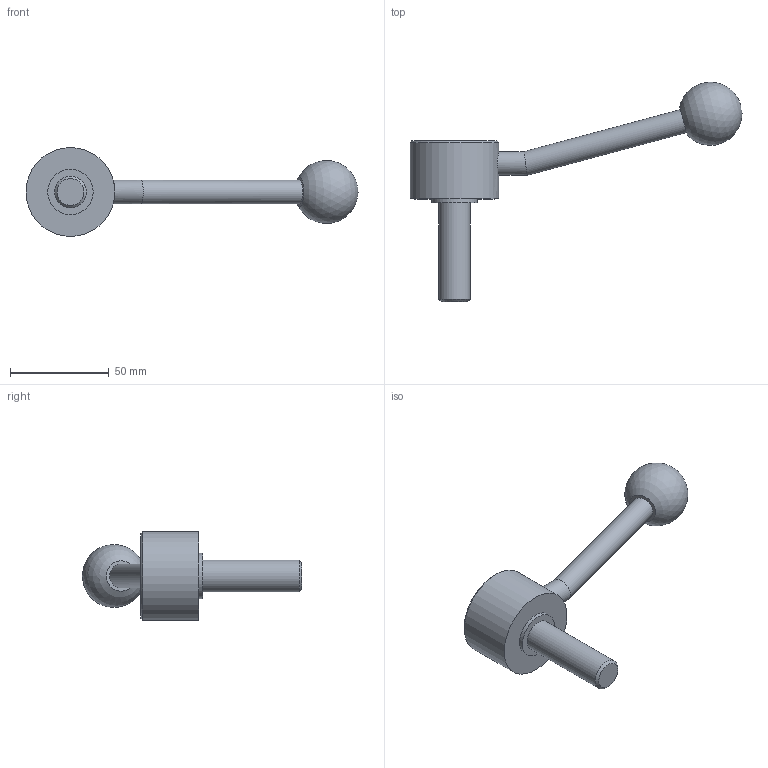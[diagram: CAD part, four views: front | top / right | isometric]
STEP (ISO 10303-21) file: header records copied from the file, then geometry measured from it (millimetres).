
FILE_DESCRIPTION( ( 'STEP AP203' ), '1' );
FILE_NAME( 'C:/Temp/Ganter_Step_05_03_2020/data/2_1/gn_125/gn_125_ms/gn_125_ms_e/Flat Adjustable Lever GN 125-45-M16-50-E.stp', '2020-03-05T11:01:03', ( 'License CC BY-ND 4.0' ), ( 'CADENAS' ), ' ', 'PARTsolutions', ' ' );
FILE_SCHEMA( ( 'CONFIG_CONTROL_DESIGN' ) );
Length unit declared in the file: millimetre
Products named in the file (1): _Flat Adjustable Lever GN 125-45-M16-50-E
Bounding box: 168.04 x 111.07 x 45 mm (x, y, z)
Volume: 85380.5 mm3; surface area: 16536 mm2
Topology: 1 solids, 1 shells, 15 faces, 25 edges, 16 vertices
Faces by surface type: cylinder 6, plane 6, cone 2, sphere 1
Full cylindrical faces by diameter (mm): 12 x2, 16 x1, 23 x1, 32 x1, 45 x1
Entity records: 422 total; most frequent: CARTESIAN_POINT 128, DIRECTION 58, AXIS2_PLACEMENT_3D 29, EDGE_LOOP 28, ORIENTED_EDGE 28, FACE_OUTER_BOUND 21, ADVANCED_FACE 15, VERTEX_POINT 15
